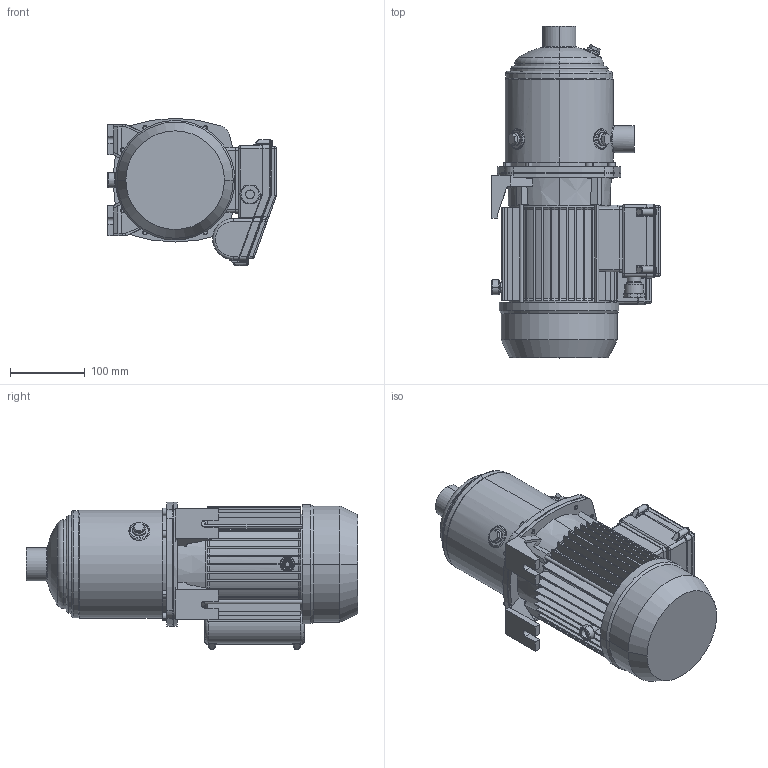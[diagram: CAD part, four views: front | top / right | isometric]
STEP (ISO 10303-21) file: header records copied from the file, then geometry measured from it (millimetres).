
FILE_DESCRIPTION((''),'2;1');
FILE_NAME('MATRIX_5-5T_1_3_M_ASM','2017-04-07T',('rosa'),('"Ebara Pumps Europe +39.444.706811"'),'PRO/ENGINEER BY PARAMETRIC TECHNOLOGY CORPORATION, 2012130','PRO/ENGINEER BY PARAMETRIC TECHNOLOGY CORPORATION, 2012130','');
FILE_SCHEMA(('AUTOMOTIVE_DESIGN { 1 0 10303 214 1 1 1 1 }'));
Length unit declared in the file: millimetre
Products named in the file (6): CORPO_POMPA_MATRIX_5-5; SUPPORTO_MATRIX_MEC_80; MEC_80_MONOFASE; 72229; COPRIMORSETTIERA_MEC80_90_M; MATRIX_5-5T_1_3_M_ASM
Assembly tree (5 placements, depth 2):
  MATRIX_5-5T_1_3_M_ASM
    CORPO_POMPA_MATRIX_5-5
    SUPPORTO_MATRIX_MEC_80
    MEC_80_MONOFASE
    72229
    COPRIMORSETTIERA_MEC80_90_M
Bounding box: 225 x 442.8 x 196.5 mm (x, y, z)
Volume: 5980667.1 mm3; surface area: 591203.4 mm2
Topology: 5 solids, 5 shells, 960 faces, 2294 edges, 1391 vertices
Faces by surface type: plane 427, cylinder 303, cone 108, torus 62, bspline 56, sphere 4
Entity records: 38975 total; most frequent: CARTESIAN_POINT 9187, DIRECTION 4712, ORIENTED_EDGE 4588, EDGE_CURVE 2294, PRESENTATION_STYLE_ASSIGNMENT 2248, STYLED_ITEM 2248, CURVE_STYLE 2244, AXIS2_PLACEMENT_3D 1815
